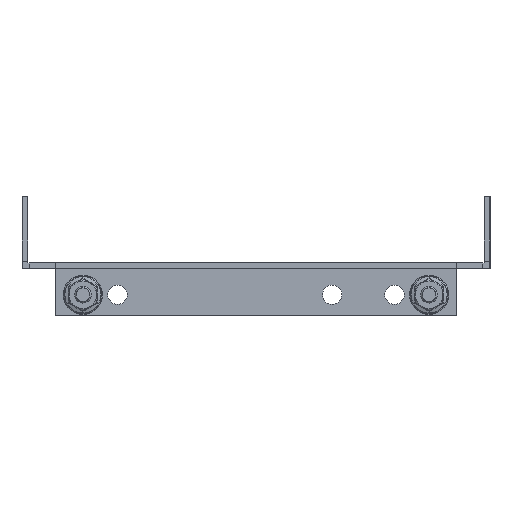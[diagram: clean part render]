
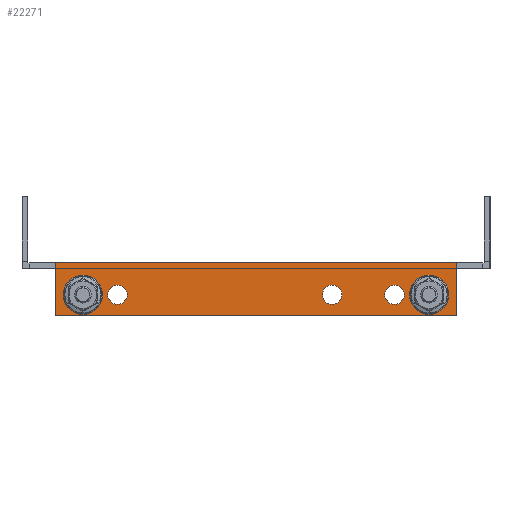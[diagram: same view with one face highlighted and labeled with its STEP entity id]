
A CAD part, left-side view. The second image highlights one B-rep face of the part: STEP entity #22271.
In plain terms, the highlighted planar face has unit normal (-1, 0, 0).
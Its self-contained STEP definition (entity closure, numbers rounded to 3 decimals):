
#10016 = VERTEX_POINT('',#10017);
#10017 = CARTESIAN_POINT('',(-350.,72.5,2.));
#10023 = EDGE_CURVE('',#10024,#10016,#10026,.T.);
#10024 = VERTEX_POINT('',#10025);
#10025 = CARTESIAN_POINT('',(-350.,-72.5,2.));
#10026 = LINE('',#10027,#10028);
#10027 = CARTESIAN_POINT('',(-350.,-82.5,2.));
#10028 = VECTOR('',#10029,1.);
#10029 = DIRECTION('',(-0.,1.,-0.));
#22150 = VERTEX_POINT('',#22151);
#22151 = CARTESIAN_POINT('',(-350.,-72.5,-0.6));
#22166 = EDGE_CURVE('',#22150,#10024,#22167,.T.);
#22167 = LINE('',#22168,#22169);
#22168 = CARTESIAN_POINT('',(-350.,-72.5,-0.6));
#22169 = VECTOR('',#22170,1.);
#22170 = DIRECTION('',(0.,-0.,1.));
#22190 = VERTEX_POINT('',#22191);
#22191 = CARTESIAN_POINT('',(-350.,72.5,-0.6));
#22197 = EDGE_CURVE('',#22190,#10016,#22198,.T.);
#22198 = LINE('',#22199,#22200);
#22199 = CARTESIAN_POINT('',(-350.,72.5,0.));
#22200 = VECTOR('',#22201,1.);
#22201 = DIRECTION('',(0.,0.,1.));
#22213 = EDGE_CURVE('',#22214,#22190,#22216,.T.);
#22214 = VERTEX_POINT('',#22215);
#22215 = CARTESIAN_POINT('',(-350.,72.5,-17.));
#22216 = LINE('',#22217,#22218);
#22217 = CARTESIAN_POINT('',(-350.,72.5,0.));
#22218 = VECTOR('',#22219,1.);
#22219 = DIRECTION('',(0.,-0.,1.));
#22253 = EDGE_CURVE('',#22150,#22254,#22256,.T.);
#22254 = VERTEX_POINT('',#22255);
#22255 = CARTESIAN_POINT('',(-350.,-72.5,-17.));
#22256 = LINE('',#22257,#22258);
#22257 = CARTESIAN_POINT('',(-350.,-72.5,-17.));
#22258 = VECTOR('',#22259,1.);
#22259 = DIRECTION('',(0.,0.,-1.));
#22271 = ADVANCED_FACE('',(#22272,#22283,#22303,#22323,#22334,#22345),
  #22358,.T.);
#22272 = FACE_BOUND('',#22273,.T.);
#22273 = EDGE_LOOP('',(#22274));
#22274 = ORIENTED_EDGE('',*,*,#22275,.T.);
#22275 = EDGE_CURVE('',#22276,#22276,#22278,.T.);
#22276 = VERTEX_POINT('',#22277);
#22277 = CARTESIAN_POINT('',(-350.,-27.5,-13.));
#22278 = CIRCLE('',#22279,3.5);
#22279 = AXIS2_PLACEMENT_3D('',#22280,#22281,#22282);
#22280 = CARTESIAN_POINT('',(-350.,-27.5,-9.5));
#22281 = DIRECTION('',(1.,0.,0.));
#22282 = DIRECTION('',(0.,-0.,-1.));
#22283 = FACE_BOUND('',#22284,.T.);
#22284 = EDGE_LOOP('',(#22285,#22296));
#22285 = ORIENTED_EDGE('',*,*,#22286,.F.);
#22286 = EDGE_CURVE('',#22287,#22289,#22291,.T.);
#22287 = VERTEX_POINT('',#22288);
#22288 = CARTESIAN_POINT('',(-350.,-62.5,-13.));
#22289 = VERTEX_POINT('',#22290);
#22290 = CARTESIAN_POINT('',(-350.,-62.5,-6.));
#22291 = CIRCLE('',#22292,3.5);
#22292 = AXIS2_PLACEMENT_3D('',#22293,#22294,#22295);
#22293 = CARTESIAN_POINT('',(-350.,-62.5,-9.5));
#22294 = DIRECTION('',(-1.,0.,0.));
#22295 = DIRECTION('',(0.,0.,-1.));
#22296 = ORIENTED_EDGE('',*,*,#22297,.F.);
#22297 = EDGE_CURVE('',#22289,#22287,#22298,.T.);
#22298 = CIRCLE('',#22299,3.5);
#22299 = AXIS2_PLACEMENT_3D('',#22300,#22301,#22302);
#22300 = CARTESIAN_POINT('',(-350.,-62.5,-9.5));
#22301 = DIRECTION('',(-1.,0.,0.));
#22302 = DIRECTION('',(0.,0.,-1.));
#22303 = FACE_BOUND('',#22304,.T.);
#22304 = EDGE_LOOP('',(#22305,#22316));
#22305 = ORIENTED_EDGE('',*,*,#22306,.F.);
#22306 = EDGE_CURVE('',#22307,#22309,#22311,.T.);
#22307 = VERTEX_POINT('',#22308);
#22308 = CARTESIAN_POINT('',(-350.,-50.,-13.));
#22309 = VERTEX_POINT('',#22310);
#22310 = CARTESIAN_POINT('',(-350.,-50.,-6.));
#22311 = CIRCLE('',#22312,3.5);
#22312 = AXIS2_PLACEMENT_3D('',#22313,#22314,#22315);
#22313 = CARTESIAN_POINT('',(-350.,-50.,-9.5));
#22314 = DIRECTION('',(-1.,0.,0.));
#22315 = DIRECTION('',(0.,0.,-1.));
#22316 = ORIENTED_EDGE('',*,*,#22317,.F.);
#22317 = EDGE_CURVE('',#22309,#22307,#22318,.T.);
#22318 = CIRCLE('',#22319,3.5);
#22319 = AXIS2_PLACEMENT_3D('',#22320,#22321,#22322);
#22320 = CARTESIAN_POINT('',(-350.,-50.,-9.5));
#22321 = DIRECTION('',(-1.,0.,0.));
#22322 = DIRECTION('',(0.,0.,-1.));
#22323 = FACE_BOUND('',#22324,.T.);
#22324 = EDGE_LOOP('',(#22325));
#22325 = ORIENTED_EDGE('',*,*,#22326,.F.);
#22326 = EDGE_CURVE('',#22327,#22327,#22329,.T.);
#22327 = VERTEX_POINT('',#22328);
#22328 = CARTESIAN_POINT('',(-350.,50.,-6.));
#22329 = CIRCLE('',#22330,3.5);
#22330 = AXIS2_PLACEMENT_3D('',#22331,#22332,#22333);
#22331 = CARTESIAN_POINT('',(-350.,50.,-9.5));
#22332 = DIRECTION('',(-1.,0.,0.));
#22333 = DIRECTION('',(0.,0.,1.));
#22334 = FACE_BOUND('',#22335,.T.);
#22335 = EDGE_LOOP('',(#22336));
#22336 = ORIENTED_EDGE('',*,*,#22337,.F.);
#22337 = EDGE_CURVE('',#22338,#22338,#22340,.T.);
#22338 = VERTEX_POINT('',#22339);
#22339 = CARTESIAN_POINT('',(-350.,62.5,-6.));
#22340 = CIRCLE('',#22341,3.5);
#22341 = AXIS2_PLACEMENT_3D('',#22342,#22343,#22344);
#22342 = CARTESIAN_POINT('',(-350.,62.5,-9.5));
#22343 = DIRECTION('',(-1.,0.,0.));
#22344 = DIRECTION('',(0.,0.,1.));
#22345 = FACE_BOUND('',#22346,.T.);
#22346 = EDGE_LOOP('',(#22347,#22348,#22349,#22350,#22351,#22352));
#22347 = ORIENTED_EDGE('',*,*,#22253,.F.);
#22348 = ORIENTED_EDGE('',*,*,#22166,.T.);
#22349 = ORIENTED_EDGE('',*,*,#10023,.T.);
#22350 = ORIENTED_EDGE('',*,*,#22197,.F.);
#22351 = ORIENTED_EDGE('',*,*,#22213,.F.);
#22352 = ORIENTED_EDGE('',*,*,#22353,.F.);
#22353 = EDGE_CURVE('',#22254,#22214,#22354,.T.);
#22354 = LINE('',#22355,#22356);
#22355 = CARTESIAN_POINT('',(-350.,72.5,-17.));
#22356 = VECTOR('',#22357,1.);
#22357 = DIRECTION('',(-0.,1.,-0.));
#22358 = PLANE('',#22359);
#22359 = AXIS2_PLACEMENT_3D('',#22360,#22361,#22362);
#22360 = CARTESIAN_POINT('',(-350.,72.5,0.));
#22361 = DIRECTION('',(-1.,0.,0.));
#22362 = DIRECTION('',(0.,0.,1.));
